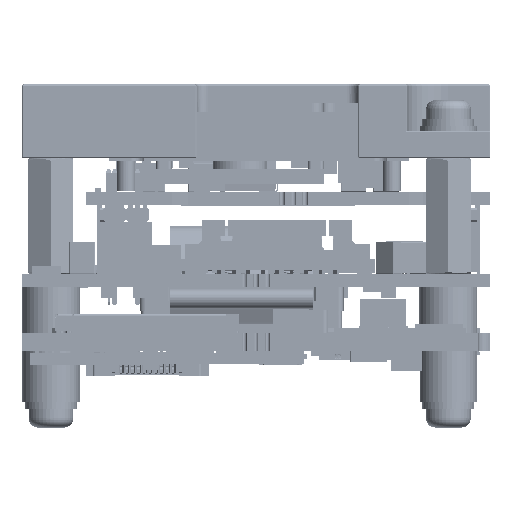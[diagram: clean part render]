
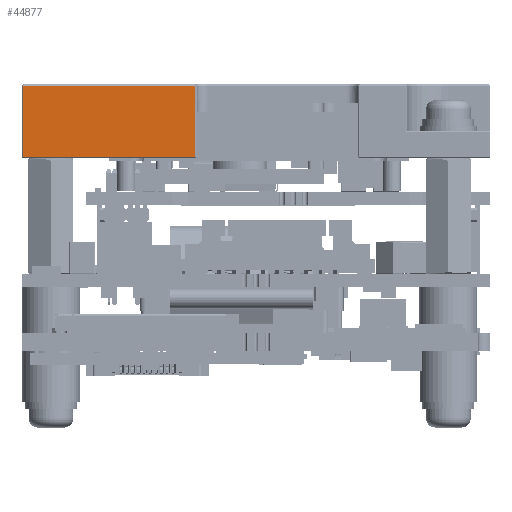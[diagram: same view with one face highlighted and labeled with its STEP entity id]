
A CAD part, left-side view. The second image highlights one B-rep face of the part: STEP entity #44877.
In plain terms, the highlighted planar face has unit normal (-1, 0, 0).
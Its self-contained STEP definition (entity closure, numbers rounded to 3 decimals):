
#44877 = ADVANCED_FACE( '', ( #83093 ), #83094, .T. );
#83093 = FACE_OUTER_BOUND( '', #122028, .T. );
#83094 = PLANE( '', #122029 );
#122028 = EDGE_LOOP( '', ( #189025, #189026, #189027, #189028 ) );
#122029 = AXIS2_PLACEMENT_3D( '', #189029, #189030, #189031 );
#189025 = ORIENTED_EDGE( '', *, *, #227442, .T. );
#189026 = ORIENTED_EDGE( '', *, *, #237445, .T. );
#189027 = ORIENTED_EDGE( '', *, *, #226061, .T. );
#189028 = ORIENTED_EDGE( '', *, *, #220725, .T. );
#189029 = CARTESIAN_POINT( '', ( -16.4, -20.25, 2. ) );
#189030 = DIRECTION( '', ( -1., 0., 0. ) );
#189031 = DIRECTION( '', ( 0., 0., 1. ) );
#220725 = EDGE_CURVE( '', #255426, #255424, #255427, .T. );
#226061 = EDGE_CURVE( '', #263936, #255426, #263937, .T. );
#227442 = EDGE_CURVE( '', #255424, #255570, #266022, .T. );
#237445 = EDGE_CURVE( '', #255570, #263936, #279352, .T. );
#255424 = VERTEX_POINT( '', #303184 );
#255426 = VERTEX_POINT( '', #303187 );
#255427 = LINE( '', #303188, #303189 );
#255570 = VERTEX_POINT( '', #303401 );
#263936 = VERTEX_POINT( '', #315384 );
#263937 = LINE( '', #315385, #315386 );
#266022 = LINE( '', #318434, #318435 );
#279352 = LINE( '', #338059, #338060 );
#303184 = CARTESIAN_POINT( '', ( -16.4, 20.15, 1.9 ) );
#303187 = CARTESIAN_POINT( '', ( -16.4, 5.25, 1.9 ) );
#303188 = CARTESIAN_POINT( '', ( -16.4, 20.15, 1.9 ) );
#303189 = VECTOR( '', #352376, 1000. );
#303401 = CARTESIAN_POINT( '', ( -16.4, 20.15, -4.3 ) );
#315384 = CARTESIAN_POINT( '', ( -16.4, 5.25, -4.3 ) );
#315385 = CARTESIAN_POINT( '', ( -16.4, 5.25, 2. ) );
#315386 = VECTOR( '', #357937, 1000. );
#318434 = CARTESIAN_POINT( '', ( -16.4, 20.15, 2. ) );
#318435 = VECTOR( '', #359327, 1000. );
#338059 = CARTESIAN_POINT( '', ( -16.4, -20.25, -4.3 ) );
#338060 = VECTOR( '', #368471, 1000. );
#352376 = DIRECTION( '', ( 0., 1., 0. ) );
#357937 = DIRECTION( '', ( 0., 0., 1. ) );
#359327 = DIRECTION( '', ( 0., 0., -1. ) );
#368471 = DIRECTION( '', ( 0., -1., 0. ) );
